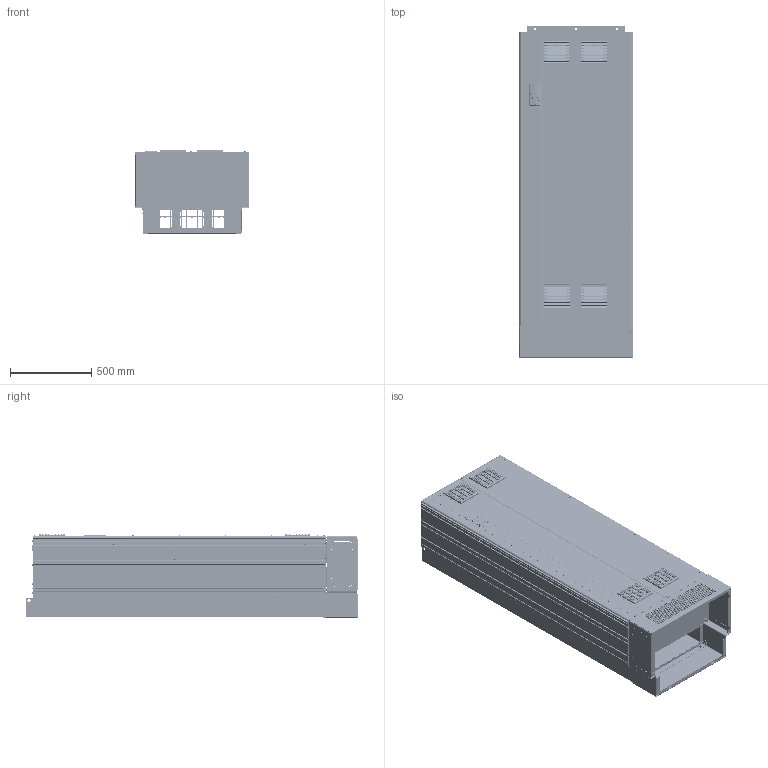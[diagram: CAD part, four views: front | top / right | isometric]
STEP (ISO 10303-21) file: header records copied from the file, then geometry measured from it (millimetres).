
FILE_DESCRIPTION((''),'2;1');
FILE_NAME('SHELL_E2H_ASM','2017-01-19T',('usdd0647'),('Danfoss Power Electronics'),'CREO PARAMETRIC BY PTC INC, 2015480','CREO PARAMETRIC BY PTC INC, 2015480','');
FILE_SCHEMA(('CONFIG_CONTROL_DESIGN','GEOMETRIC_VALIDATION_PROPERTIES_MIM'));
Products named in the file (171): 177G8944; FH-M6-15-ZI; SS-M5-2-ZI; S-M6-2-ZI; FH-M5-12-ZI; TPS-5MM-12; 177G8944_ASM; 177G9018_AF0; 177G9018_AF1_ASM; 177G8998; 177G8998_ASM; 26513; 177G9287; FH-M5-18-ZI; 177G9287_ASM; 177G4513; 177G9018_AF3; 177G9018_AF2_ASM; 26514; 175A5393; P4001_E2E4_ENCL_BACKCHANNEL_ASM; 177G8960; HFH-M10-25-ZI; FH-M8-20-ZI; 177G8960_ASM; 177G8976_AF3; 177G8976_AF4_ASM; 177G8969_AF2; 177G8969_AF1_ASM; 177G8970_AF2; 177G8970_AF1_ASM; 681X9143; 177G9002_AF5; 177G9002_AF4_ASM; 177G8994; SP-M5-2; 177G8994_ASM; 177G9378; 177G9378_ASM; 177G9235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
Assembly tree (604 placements, depth 6):
  SHELL_E2H_ASM
    P4001_E2E4_ASM
      P4001_E2E4_ENCL_BACKCHANNEL_ASM
        177G8944_ASM
          177G8944
          FH-M6-15-ZI  x4
          SS-M5-2-ZI  x32
          S-M6-2-ZI  x12
          FH-M5-12-ZI  x23
          TPS-5MM-12  x6
        177G9018_AF1_ASM
          177G9018_AF0
        177G8998_ASM  x2
          177G8998
          SS-M5-2-ZI
        26513  x19
        177G9287_ASM
          177G9287
          FH-M5-18-ZI  x4
        177G4513  x4
        177G9018_AF2_ASM
          177G9018_AF3
        26514  x4
        175A5393
      P4001_E2E4_ENCL_MIDPLATE_ASM
        177G8960_ASM
          177G8960
          HFH-M10-25-ZI  x6
          FH-M8-20-ZI  x12
          FH-M5-12-ZI  x21
          FH-M6-15-ZI  x4
        177G8976_AF4_ASM
          177G8976_AF3
        177G8969_AF1_ASM
          177G8969_AF2
        177G8970_AF1_ASM
          177G8970_AF2
        681X9143  x23
        177G9002_AF4_ASM
          177G9002_AF5
        177G8994_ASM
          177G8994
          SP-M5-2  x3
        26513  x7
        177G9378_ASM
          177G9378
          FH-M5-12-ZI
        177G9235_ASM
          177G9235
        26516  x6
        177G9029_ASM
          177G9029
          SS-M5-2-ZI  x4
        26514  x4
        177G9031_ASM
          177G9031
        27629
        27630  x5
        177A0167_ASM
          177A0167
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Bounding box: 699 x 2042.6 x 514.05 mm (x, y, z)
Volume: 23713580.8 mm3; surface area: 18873297.5 mm2
Topology: 611 solids, 733 shells, 39742 faces, 105858 edges, 67891 vertices
Faces by surface type: plane 23582, cylinder 9167, bspline 3489, cone 1810, torus 1576, sphere 72, revolution 24, extrusion 22
Entity records: 875491 total; most frequent: CARTESIAN_POINT 196774, ORIENTED_EDGE 110986, DIRECTION 102952, EDGE_CURVE 55980, PRESENTATION_STYLE_ASSIGNMENT 41908, STYLED_ITEM 40022, VECTOR 38810, LINE 38788
